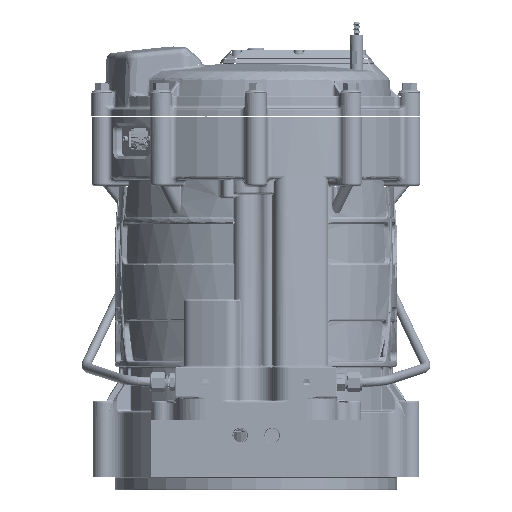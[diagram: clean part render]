
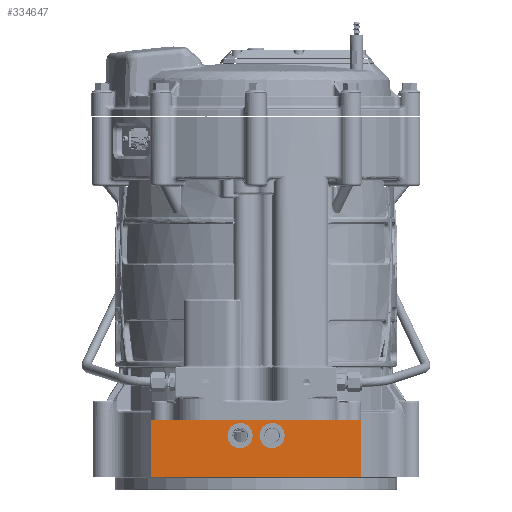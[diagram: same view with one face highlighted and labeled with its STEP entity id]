
A CAD part, front view. The second image highlights one B-rep face of the part: STEP entity #334647.
In plain terms, the highlighted planar face has unit normal (0, -1, 0).
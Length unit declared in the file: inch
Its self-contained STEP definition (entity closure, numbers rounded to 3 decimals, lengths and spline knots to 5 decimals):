
#4310 = AXIS2_PLACEMENT_3D ( 'NONE', #321697, #84549, #164261 ) ;
#5231 = DIRECTION ( 'NONE',  ( 0., 0., -1. ) ) ;
#5244 = DIRECTION ( 'NONE',  ( 0., -1., 0. ) ) ;
#9534 = CARTESIAN_POINT ( 'NONE',  ( 2.75211, 2.21672, 7.91566 ) ) ;
#12028 = ORIENTED_EDGE ( 'NONE', *, *, #342771, .T. ) ;
#29263 = CARTESIAN_POINT ( 'NONE',  ( 7.47576, 2.21672, 7.78278 ) ) ;
#32136 = VERTEX_POINT ( 'NONE', #9534 ) ;
#33610 = ORIENTED_EDGE ( 'NONE', *, *, #311539, .F. ) ;
#38817 = ORIENTED_EDGE ( 'NONE', *, *, #76547, .F. ) ;
#42853 = CIRCLE ( 'NONE', #65236, 0.49213 ) ;
#48142 = LINE ( 'NONE', #259586, #213401 ) ;
#49357 = DIRECTION ( 'NONE',  ( 0., 0., 1. ) ) ;
#65236 = AXIS2_PLACEMENT_3D ( 'NONE', #292878, #214889, #5231 ) ;
#76547 = EDGE_CURVE ( 'NONE', #173068, #339245, #42853, .T. ) ;
#80343 = CARTESIAN_POINT ( 'NONE',  ( 10.94942, 2.21672, 7.91566 ) ) ;
#83203 = DIRECTION ( 'NONE',  ( 0., 0., -1. ) ) ;
#84446 = CARTESIAN_POINT ( 'NONE',  ( 7.47576, 2.21672, 6.79853 ) ) ;
#84549 = DIRECTION ( 'NONE',  ( 0., -1., 0. ) ) ;
#85838 = ORIENTED_EDGE ( 'NONE', *, *, #177190, .T. ) ;
#86008 = EDGE_LOOP ( 'NONE', ( #129077, #161337, #85838, #12028 ) ) ;
#87469 = LINE ( 'NONE', #167188, #136263 ) ;
#87636 = VERTEX_POINT ( 'NONE', #97399 ) ;
#90404 = VERTEX_POINT ( 'NONE', #98897 ) ;
#90579 = DIRECTION ( 'NONE',  ( 0., -1., 0. ) ) ;
#97399 = CARTESIAN_POINT ( 'NONE',  ( 6.22576, 2.21672, 7.78278 ) ) ;
#98897 = CARTESIAN_POINT ( 'NONE',  ( 6.22576, 2.21672, 6.79853 ) ) ;
#106929 = CARTESIAN_POINT ( 'NONE',  ( 6.22576, 2.21672, 7.29066 ) ) ;
#109330 = PLANE ( 'NONE',  #322801 ) ;
#111886 = VERTEX_POINT ( 'NONE', #80343 ) ;
#113523 = AXIS2_PLACEMENT_3D ( 'NONE', #248321, #90579, #196261 ) ;
#117954 = VERTEX_POINT ( 'NONE', #299383 ) ;
#123646 = AXIS2_PLACEMENT_3D ( 'NONE', #106929, #311190, #312887 ) ;
#129077 = ORIENTED_EDGE ( 'NONE', *, *, #328601, .T. ) ;
#131876 = FACE_BOUND ( 'NONE', #145612, .T. ) ;
#136263 = VECTOR ( 'NONE', #220876, 39.37008 ) ;
#139770 = ORIENTED_EDGE ( 'NONE', *, *, #273870, .F. ) ;
#140638 = EDGE_LOOP ( 'NONE', ( #139770, #33610 ) ) ;
#141146 = CIRCLE ( 'NONE', #113523, 0.49213 ) ;
#145612 = EDGE_LOOP ( 'NONE', ( #237011, #38817 ) ) ;
#159121 = CIRCLE ( 'NONE', #4310, 0.49213 ) ;
#161337 = ORIENTED_EDGE ( 'NONE', *, *, #315750, .T. ) ;
#164261 = DIRECTION ( 'NONE',  ( 0., 0., -1. ) ) ;
#167188 = CARTESIAN_POINT ( 'NONE',  ( 10.94942, 2.21672, 7.91566 ) ) ;
#173068 = VERTEX_POINT ( 'NONE', #29263 ) ;
#177190 = EDGE_CURVE ( 'NONE', #117954, #111886, #179427, .T. ) ;
#179427 = LINE ( 'NONE', #208818, #228821 ) ;
#181623 = DIRECTION ( 'NONE',  ( 1., 0., 0. ) ) ;
#182034 = FACE_OUTER_BOUND ( 'NONE', #86008, .T. ) ;
#186862 = VECTOR ( 'NONE', #295117, 39.37008 ) ;
#193267 = CARTESIAN_POINT ( 'NONE',  ( 2.75211, 2.21672, 5.66566 ) ) ;
#196261 = DIRECTION ( 'NONE',  ( 0., 0., -1. ) ) ;
#208818 = CARTESIAN_POINT ( 'NONE',  ( 10.94942, 2.21672, 5.66566 ) ) ;
#213401 = VECTOR ( 'NONE', #181623, 39.37008 ) ;
#214889 = DIRECTION ( 'NONE',  ( 0., -1., 0. ) ) ;
#214895 = CARTESIAN_POINT ( 'NONE',  ( 6.85076, 2.21672, 7.91566 ) ) ;
#220876 = DIRECTION ( 'NONE',  ( -1., 0., 0. ) ) ;
#228821 = VECTOR ( 'NONE', #49357, 39.37008 ) ;
#230151 = EDGE_CURVE ( 'NONE', #339245, #173068, #159121, .T. ) ;
#237011 = ORIENTED_EDGE ( 'NONE', *, *, #230151, .F. ) ;
#248321 = CARTESIAN_POINT ( 'NONE',  ( 6.22576, 2.21672, 7.29066 ) ) ;
#259586 = CARTESIAN_POINT ( 'NONE',  ( 2.75211, 2.21672, 5.66566 ) ) ;
#261823 = CIRCLE ( 'NONE', #123646, 0.49213 ) ;
#273870 = EDGE_CURVE ( 'NONE', #90404, #87636, #141146, .T. ) ;
#292878 = CARTESIAN_POINT ( 'NONE',  ( 7.47576, 2.21672, 7.29066 ) ) ;
#295117 = DIRECTION ( 'NONE',  ( 0., 0., -1. ) ) ;
#296818 = CARTESIAN_POINT ( 'NONE',  ( 2.75211, 2.21672, 7.91566 ) ) ;
#299383 = CARTESIAN_POINT ( 'NONE',  ( 10.94942, 2.21672, 5.66566 ) ) ;
#311190 = DIRECTION ( 'NONE',  ( 0., -1., 0. ) ) ;
#311539 = EDGE_CURVE ( 'NONE', #87636, #90404, #261823, .T. ) ;
#312887 = DIRECTION ( 'NONE',  ( 0., 0., -1. ) ) ;
#315750 = EDGE_CURVE ( 'NONE', #328376, #117954, #48142, .T. ) ;
#320362 = FACE_BOUND ( 'NONE', #140638, .T. ) ;
#320895 = LINE ( 'NONE', #296818, #186862 ) ;
#321697 = CARTESIAN_POINT ( 'NONE',  ( 7.47576, 2.21672, 7.29066 ) ) ;
#322801 = AXIS2_PLACEMENT_3D ( 'NONE', #214895, #5244, #83203 ) ;
#328376 = VERTEX_POINT ( 'NONE', #193267 ) ;
#328601 = EDGE_CURVE ( 'NONE', #32136, #328376, #320895, .T. ) ;
#334647 = ADVANCED_FACE ( 'NONE', ( #320362, #131876, #182034 ), #109330, .T. ) ;
#339245 = VERTEX_POINT ( 'NONE', #84446 ) ;
#342771 = EDGE_CURVE ( 'NONE', #111886, #32136, #87469, .T. ) ;
